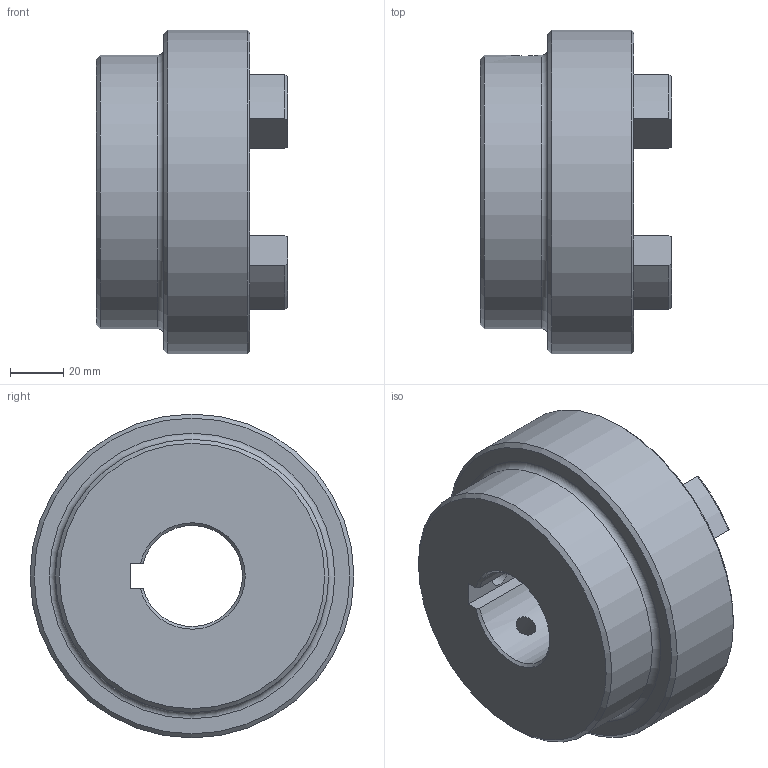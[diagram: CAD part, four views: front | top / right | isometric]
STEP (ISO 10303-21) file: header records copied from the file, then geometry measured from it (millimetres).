
FILE_DESCRIPTION (( 'STEP AP203' ), '1' );
FILE_NAME ('RC5.step', '2024-07-25T13:25:45', ( 'Adlan' ), ( '' ), 'SwSTEP 2.0', 'SolidWorks 2013', '' );
FILE_SCHEMA (( 'CONFIG_CONTROL_DESIGN' ));
Length unit declared in the file: inch
Products named in the file (1): RC5
Bounding box: 72.14 x 122.17 x 122.17 mm (x, y, z)
Volume: 427755.5 mm3; surface area: 59959.1 mm2
Topology: 1 solids, 1 shells, 83 faces, 210 edges, 131 vertices
Faces by surface type: cylinder 33, plane 19, torus 17, cone 14
Full cylindrical faces by diameter (mm): 7.937 x2, 103.124 x1, 122.174 x1
Entity records: 2789 total; most frequent: CARTESIAN_POINT 708, DIRECTION 446, ORIENTED_EDGE 394, EDGE_CURVE 197, AXIS2_PLACEMENT_3D 178, VERTEX_POINT 128, EDGE_LOOP 101, CIRCLE 94
